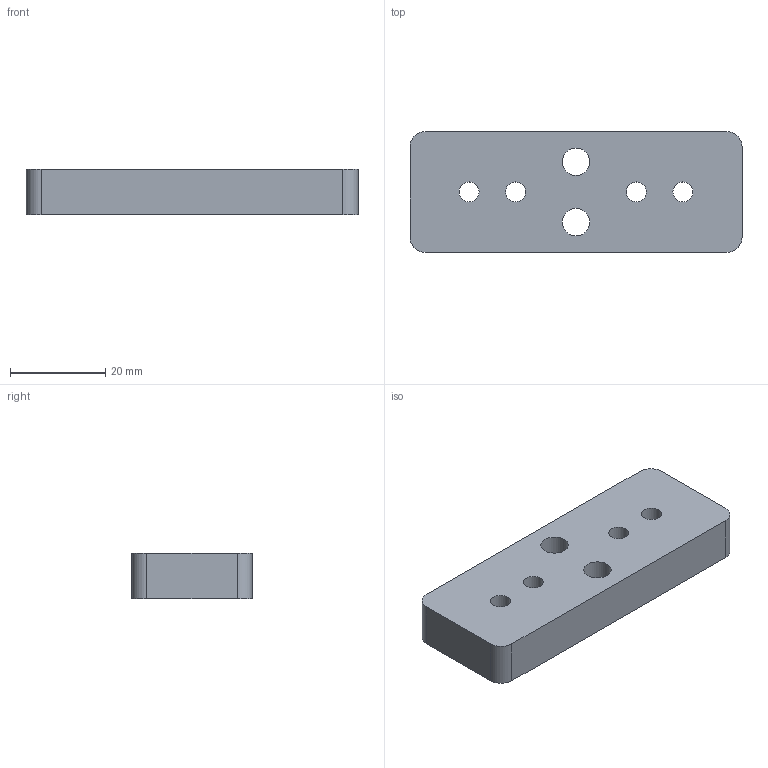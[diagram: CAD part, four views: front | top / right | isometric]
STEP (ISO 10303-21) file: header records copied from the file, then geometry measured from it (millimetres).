
FILE_DESCRIPTION (( 'STEP AP203' ), '1' );
FILE_NAME ('SLM-622-SV-EZRL.STEP', '2019-10-25T13:30:48', ( '' ), ( '' ), 'SwSTEP 2.0', 'SolidWorks 2019', '' );
FILE_SCHEMA (( 'CONFIG_CONTROL_DESIGN' ));
Length unit declared in the file: inch
Products named in the file (1): SLM-622-SV-EZRL
Bounding box: 69.85 x 25.4 x 9.53 mm (x, y, z)
Volume: 15242.2 mm3; surface area: 6064.7 mm2
Topology: 1 solids, 1 shells, 21 faces, 63 edges, 47 vertices
Faces by surface type: cylinder 12, plane 9
Full cylindrical faces by diameter (mm): 4.2 x4, 5.791 x2, 10.008 x2
Entity records: 812 total; most frequent: CARTESIAN_POINT 134, DIRECTION 122, ORIENTED_EDGE 110, EDGE_CURVE 55, VERTEX_POINT 47, AXIS2_PLACEMENT_3D 46, EDGE_LOOP 44, LINE 30
